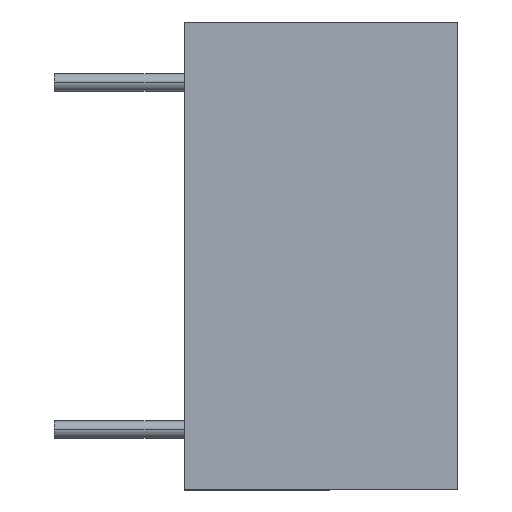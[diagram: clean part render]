
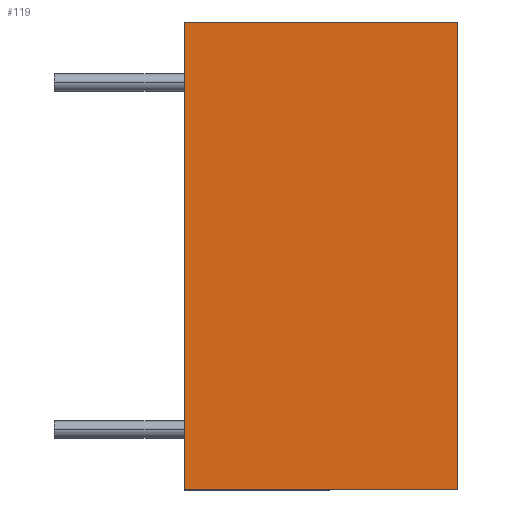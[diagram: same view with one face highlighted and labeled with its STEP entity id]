
A CAD part, left-side view. The second image highlights one B-rep face of the part: STEP entity #119.
In plain terms, the highlighted planar face has unit normal (-1, 0, 0).
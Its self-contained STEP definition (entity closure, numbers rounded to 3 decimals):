
#7 = DIRECTION ( 'NONE',  ( 0., 0., -1. ) ) ;
#104 = VERTEX_POINT ( 'NONE', #308 ) ;
#107 = ORIENTED_EDGE ( 'NONE', *, *, #720, .T. ) ;
#113 = EDGE_LOOP ( 'NONE', ( #107, #297, #220, #471 ) ) ;
#119 = ADVANCED_FACE ( 'NONE', ( #372 ), #706, .F. ) ;
#132 = CARTESIAN_POINT ( 'NONE',  ( -11.9, 0., 6.85 ) ) ;
#190 = EDGE_CURVE ( 'NONE', #272, #586, #312, .T. ) ;
#220 = ORIENTED_EDGE ( 'NONE', *, *, #254, .F. ) ;
#254 = EDGE_CURVE ( 'NONE', #104, #272, #785, .T. ) ;
#272 = VERTEX_POINT ( 'NONE', #769 ) ;
#292 = VECTOR ( 'NONE', #589, 1000. ) ;
#297 = ORIENTED_EDGE ( 'NONE', *, *, #190, .F. ) ;
#301 = DIRECTION ( 'NONE',  ( 0., -1., 0. ) ) ;
#308 = CARTESIAN_POINT ( 'NONE',  ( -11.9, 8., -6.85 ) ) ;
#312 = LINE ( 'NONE', #378, #445 ) ;
#314 = DIRECTION ( 'NONE',  ( 0., -1., 0. ) ) ;
#372 = FACE_OUTER_BOUND ( 'NONE', #113, .T. ) ;
#375 = CARTESIAN_POINT ( 'NONE',  ( -11.9, 8., -6.85 ) ) ;
#378 = CARTESIAN_POINT ( 'NONE',  ( -11.9, 8., 6.85 ) ) ;
#414 = VECTOR ( 'NONE', #301, 1000. ) ;
#433 = VECTOR ( 'NONE', #644, 1000. ) ;
#444 = AXIS2_PLACEMENT_3D ( 'NONE', #702, #497, #7 ) ;
#445 = VECTOR ( 'NONE', #314, 1000. ) ;
#471 = ORIENTED_EDGE ( 'NONE', *, *, #518, .T. ) ;
#497 = DIRECTION ( 'NONE',  ( 1., 0., 0. ) ) ;
#498 = VERTEX_POINT ( 'NONE', #805 ) ;
#518 = EDGE_CURVE ( 'NONE', #104, #498, #629, .T. ) ;
#529 = CARTESIAN_POINT ( 'NONE',  ( -11.9, 8., 6.85 ) ) ;
#586 = VERTEX_POINT ( 'NONE', #692 ) ;
#589 = DIRECTION ( 'NONE',  ( 0., 0., 1. ) ) ;
#629 = LINE ( 'NONE', #375, #414 ) ;
#644 = DIRECTION ( 'NONE',  ( 0., 0., 1. ) ) ;
#692 = CARTESIAN_POINT ( 'NONE',  ( -11.9, 0., 6.85 ) ) ;
#702 = CARTESIAN_POINT ( 'NONE',  ( -11.9, 8., 6.85 ) ) ;
#706 = PLANE ( 'NONE',  #444 ) ;
#720 = EDGE_CURVE ( 'NONE', #498, #586, #773, .T. ) ;
#769 = CARTESIAN_POINT ( 'NONE',  ( -11.9, 8., 6.85 ) ) ;
#773 = LINE ( 'NONE', #132, #433 ) ;
#785 = LINE ( 'NONE', #529, #292 ) ;
#805 = CARTESIAN_POINT ( 'NONE',  ( -11.9, 0., -6.85 ) ) ;
